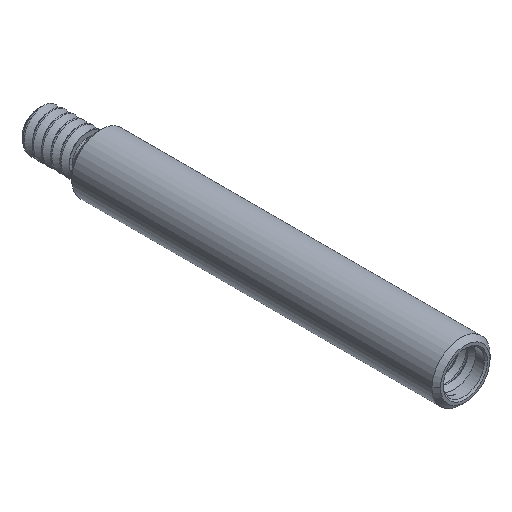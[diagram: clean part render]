
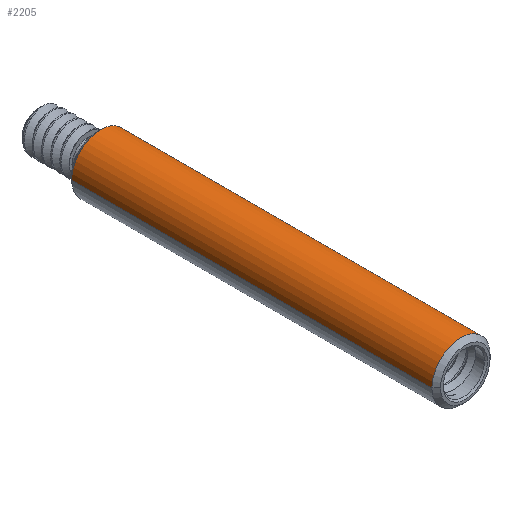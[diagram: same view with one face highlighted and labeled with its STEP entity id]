
A CAD part, isometric view. The second image highlights one B-rep face of the part: STEP entity #2205.
In plain terms, the highlighted cylindrical face has radius 2 mm (diameter 4 mm), a partial arc.
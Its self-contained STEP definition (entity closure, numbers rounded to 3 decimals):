
#34=DIRECTION('',(0.,1.,0.));
#35=VECTOR('',#34,24.8);
#36=CARTESIAN_POINT('',(2.,-12.4,
0.));
#37=LINE('',#36,#35);
#43=CARTESIAN_POINT('',(0.,-12.4,0.));
#44=DIRECTION('',(0.,-1.,0.));
#45=DIRECTION('',(1.,0.,0.));
#46=AXIS2_PLACEMENT_3D('',#43,#44,#45);
#48=DIRECTION('',(0.,1.,0.));
#49=VECTOR('',#48,24.8);
#50=CARTESIAN_POINT('',(-2.,-12.4,
0.));
#51=LINE('',#50,#49);
#52=CARTESIAN_POINT('',(0.,12.4,0.));
#53=DIRECTION('',(0.,1.,0.));
#54=DIRECTION('',(-1.,0.,0.));
#55=AXIS2_PLACEMENT_3D('',#52,#53,#54);
#2008=CARTESIAN_POINT('',(2.,-12.4,0.));
#2009=CARTESIAN_POINT('',(-2.,-12.4,0.));
#2010=VERTEX_POINT('',#2008);
#2011=VERTEX_POINT('',#2009);
#2016=CARTESIAN_POINT('',(-2.,12.4,0.));
#2017=CARTESIAN_POINT('',(2.,12.4,0.));
#2018=VERTEX_POINT('',#2016);
#2019=VERTEX_POINT('',#2017);
#2193=CARTESIAN_POINT('',(0.,-12.7,0.));
#2194=DIRECTION('',(0.,1.,0.));
#2195=DIRECTION('',(1.,0.,0.));
#2196=AXIS2_PLACEMENT_3D('',#2193,#2194,#2195);
#2197=CYLINDRICAL_SURFACE('',#2196,2.);
#2198=ORIENTED_EDGE('',*,*,#2158,.T.);
#2199=ORIENTED_EDGE('',*,*,#2188,.T.);
#2201=ORIENTED_EDGE('',*,*,#2200,.T.);
#2202=ORIENTED_EDGE('',*,*,#2184,.F.);
#2203=EDGE_LOOP('',(#2198,#2199,#2201,#2202));
#2204=FACE_OUTER_BOUND('',#2203,.F.);
#2205=ADVANCED_FACE('',(#2204),#2197,.T.);
#47=CIRCLE('',#46,2.);
#56=CIRCLE('',#55,2.);
#2158=EDGE_CURVE('',#2010,#2011,#47,.T.);
#2184=EDGE_CURVE('',#2010,#2019,#37,.T.);
#2188=EDGE_CURVE('',#2011,#2018,#51,.T.);
#2200=EDGE_CURVE('',#2018,#2019,#56,.T.);
